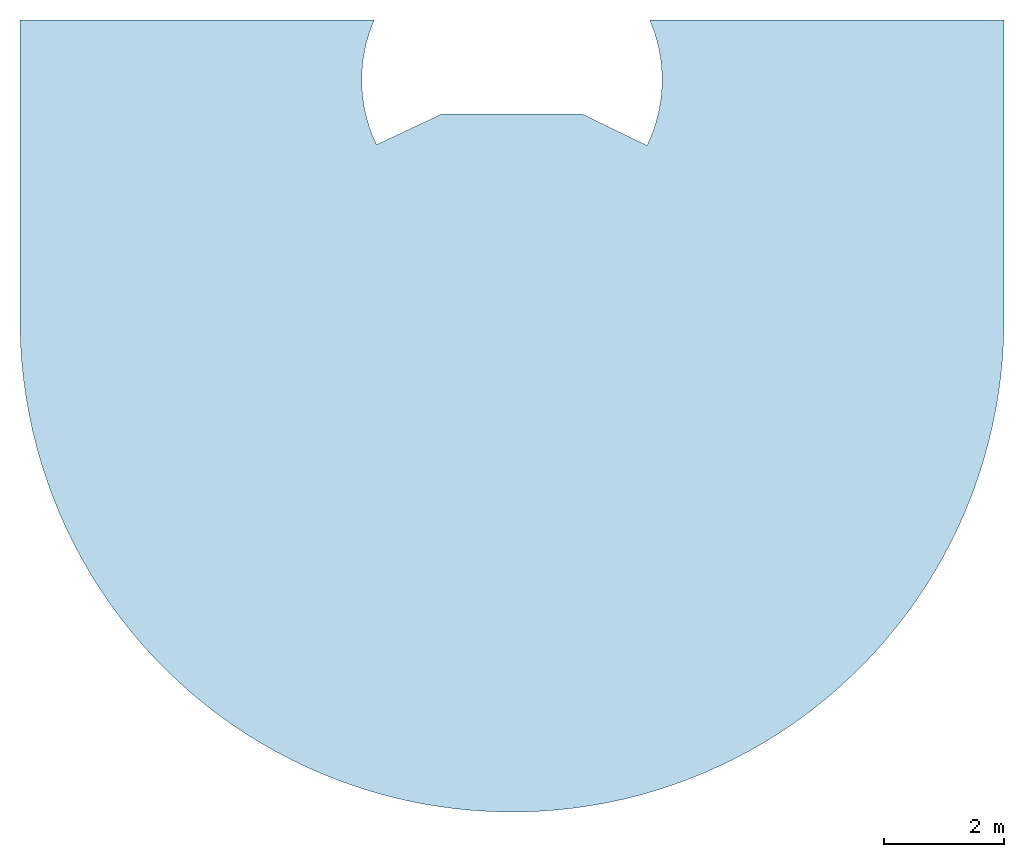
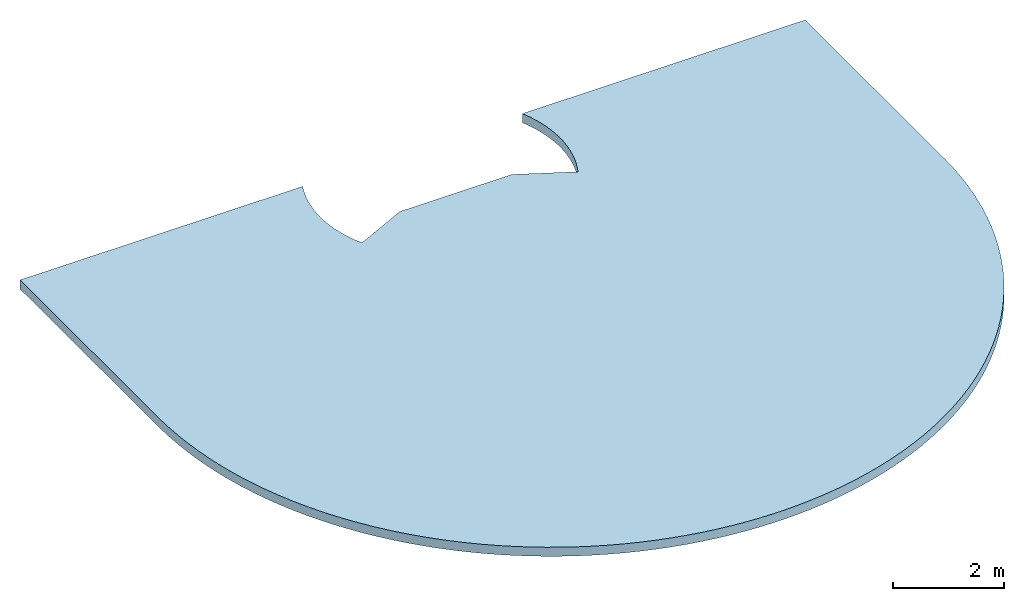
# One storey: 1 slab.
"""IFC4 building model written with IfcOpenShell, lengths in millimetres."""

from ifc_helpers import new_model, entity, si_unit, converted_unit, derived_unit, direction, frame, origin_with_axes, place, context, subcontext, project, spatial, polygons, material, type_object, element, save


model = new_model("IFC4")

# Units and contexts
model_context = context("Model", 3, precision=0.01, world=origin_with_axes(), true_north=direction((0.0, 1.0)))
body_context = subcontext(model_context, "Body", "Model", "MODEL_VIEW")
ifc_project = project(units=[si_unit("LENGTHUNIT", "METRE", prefix="MILLI"), si_unit("AREAUNIT", "SQUARE_METRE"), si_unit("VOLUMEUNIT", "CUBIC_METRE"), converted_unit("PLANEANGLEUNIT", "DEGREE", entity("IfcPlaneAngleMeasure", 0.0174532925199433), si_unit("PLANEANGLEUNIT", "RADIAN"), dimensions=[0, 0, 0, 0, 0, 0, 0]), converted_unit("TIMEUNIT", "Year", entity("IfcTimeMeasure", 31557600.0), si_unit("TIMEUNIT", "SECOND"), dimensions=[0, 0, 1, 0, 0, 0, 0]), si_unit("MASSUNIT", "GRAM", prefix="KILO"), si_unit("THERMODYNAMICTEMPERATUREUNIT", "DEGREE_CELSIUS"), si_unit("LUMINOUSINTENSITYUNIT", "LUMEN"), si_unit("ENERGYUNIT", "JOULE", prefix="MEGA"), derived_unit("THERMALCONDUCTANCEUNIT", [(si_unit("POWERUNIT", "WATT"), 1), (si_unit("LENGTHUNIT", "METRE"), -1), (si_unit("THERMODYNAMICTEMPERATUREUNIT", "KELVIN"), -1)]), derived_unit("SPECIFICHEATCAPACITYUNIT", [(si_unit("ENERGYUNIT", "JOULE"), 1), (si_unit("MASSUNIT", "GRAM", prefix="KILO"), -1), (si_unit("THERMODYNAMICTEMPERATUREUNIT", "KELVIN"), -1)]), derived_unit("MASSDENSITYUNIT", [(si_unit("MASSUNIT", "GRAM", prefix="KILO"), 1), (si_unit("VOLUMEUNIT", "CUBIC_METRE"), -1)])], contexts=[model_context])

# Site, building, storey
site_placement = place(None, origin_with_axes())
site = spatial("IfcSite", under=ifc_project, at=site_placement, Name="Exteriér", CompositionType="ELEMENT")
building_placement = place(site_placement, origin_with_axes())
building = spatial("IfcBuilding", under=site, at=building_placement, Name="Univerzitní lezecké centrum", CompositionType="ELEMENT")
storey_placement = place(building_placement, origin_with_axes())
storey = spatial("IfcBuildingStorey", under=building, at=storey_placement, Name="1.NP", CompositionType="ELEMENT", Elevation=0.0)

# Slab
ifc_material = material(Name="Beton vyztužený stropy")
slab_type = type_object("IfcSlabType", Name="Beton vyztužený stropy 200", PredefinedType="FLOOR")
slab_placement = place(storey_placement, frame((-5750.148360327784, 4700.00000000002, -120.000000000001), z_axis=(0.0, 0.0, 1.0), x_axis=(1.0, 0.0, 0.0)))
element("IfcSlab", 1, at=slab_placement, inside=storey, type_object=slab_type, material=ifc_material, Name="D02", PredefinedType="FLOOR", context=body_context, shape_type="Tessellation", body=[
    polygons([(8504.045631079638, -1566.550006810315, 0.0), (9224.88154503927, -1566.570605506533, 0.0), (9336.61521730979, -1566.573798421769, 0.0), (9336.61521730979, -1566.573798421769, -200.0), (8504.045631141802, -1566.550006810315, -200.0), (7029.948262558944, -1566.550006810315, 0.0), (5944.388825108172, -2077.817007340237, 0.0), (5874.039902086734, -1921.1812308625, 0.0), (5820.129976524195, -1772.8371608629, 0.0), (5775.737151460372, -1621.372576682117, 0.0), (5741.040181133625, -1467.397372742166, 0.0), (5716.178777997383, -1311.531552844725, 0.0), (5701.253050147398, -1154.402733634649, 0.0), (5696.323098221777, -996.6436174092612, 0.0), (5701.40877339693, -838.889444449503, 0.0), (5716.489597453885, -681.7754351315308, 0.0), (5741.504845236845, -525.934232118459, 0.0), (5776.353789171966, -371.9933529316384, 0.0), (5820.896104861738, -220.5726631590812, 0.0), (5874.952436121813, -72.28188047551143, 0.0), (5906.628776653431, 0.0, 0.0), (0.0, 0.0, 0.0), (9.185233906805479e-06, -5000.000000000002, 0.0), (0.0002207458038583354, -5143.931762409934, 0.0), (10.10303729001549, -5431.617949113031, 0.0), (30.29580063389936, -5718.772369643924, 0.0), (60.55363338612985, -6005.04125108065, 0.0), (100.8392580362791, -6290.071911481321, 0.0), (151.103042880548, -6573.51319438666, 0.0), (211.2830631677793, -6855.015901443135, 0.0), (281.305177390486, -7134.23322261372, 0.0), (361.0831186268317, -7410.821163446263, 0.0), (450.5186008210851, -7684.43896887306, 0.0), (549.5014398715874, -7954.749543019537, 0.0), (657.9096893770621, -8221.419864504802, 0.0), (775.6097908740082, -8484.121396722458, 0.0), (902.4567383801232, -8742.530492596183, 0.0), (1038.294257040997, -8996.328793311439, 0.0), (1182.954995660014, -9245.203620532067, 0.0), (1336.260732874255, -9488.848361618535, 0.0), (1498.022596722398, -9726.962847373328, 0.0), (1668.041297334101, -9959.253721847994, 0.0), (1846.107372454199, -10185.43480375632, 0.0), (2032.001445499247, -10405.22743904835, 0.0), (2225.494495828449, -10618.36084421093, 0.0), (2426.348140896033, -10824.5724398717, 0.0), (2634.314929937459, -11023.60817429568, 0.0), (2849.138648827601, -11215.22283637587, 0.0), (3070.554635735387, -11399.18035773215, 0.0), (3298.29010718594, -11575.25410354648, 0.0), (3532.064494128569, -11743.22715177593, 0.0), (3771.589787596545, -11902.89256039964, 0.0), (4016.570893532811, -12054.05362237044, 0.0), (4266.705996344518, -12196.52410795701, 0.0), (4521.686930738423, -12330.12849417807, 0.0), (4781.199561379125, -12454.70218104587, 0.0), (5044.924169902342, -12570.09169435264, 0.0), (5312.535848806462, -12676.15487475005, 0.0), (5583.704901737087, -12772.76105288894, 0.0), (5858.097249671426, -12859.79121040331, 0.0), (6135.3748425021, -12937.13812654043, 0.0), (6415.19607551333, -13004.70651025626, 0.0), (6697.216210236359, -13062.41311761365, 0.0), (6981.087799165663, -13110.18685433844, 0.0), (7266.461113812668, -13147.96886340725, 0.0), (7552.984575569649, -13175.71259755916, 0.0), (7840.305188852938, -13193.3838766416, 0.0), (8128.06897599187, -13200.96092972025, 0.0), (8200.000009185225, -13200.01351174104, 0.0), (8343.931797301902, -13200.01303729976, 0.0), (8631.618016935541, -13189.90969351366, 0.0), (8918.77245187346, -13169.71640209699, 0.0), (9205.041329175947, -13139.45804109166, 0.0), (9490.071966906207, -13099.1718886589, 0.0), (9773.513208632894, -13048.90757715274, 0.0), (10055.01585605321, -12988.72703197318, 0.0), (10334.23309920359, -12918.70439527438, 0.0), (10610.82094372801, -12838.92593462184, 0.0), (10884.43863467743, -12749.48993671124, 0.0), (11154.74907631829, -12650.50658627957, 0.0), (11421.41924743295, -12542.09783035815, 0.0), (11684.12061160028, -12424.39722803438, 0.0), (11942.52952195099, -12297.54978590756, 0.0), (12196.32761989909, -12161.71177944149, 0.0), (12445.20222735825, -12017.05056043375, 0.0), (12688.84673195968, -11863.7443508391, 0.0), (12926.9609647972, -11701.98202320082, 0.0), (13159.25157023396, -11531.96286796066, 0.0), (13385.4323673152, -11353.89634793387, 0.0), (13605.22470234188, -11168.00184025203, 0.0), (13818.35779217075, -10974.5083660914, 0.0), (14024.56905781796, -10773.6543085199, 0.0), (14223.60444795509, -10565.68711881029, 0.0), (14415.21875189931, -10350.86301158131, 0.0), (14599.17590171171, -10129.44664914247, 0.0), (14775.24926303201, -9901.710815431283, 0.0), (14943.22191429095, -9667.936079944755, 0.0), (15102.88691395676, -9428.410452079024, 0.0), (15254.04755548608, -9183.429026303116, 0.0), (15396.51760966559, -8933.293618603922, 0.0), (15530.1215540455, -8678.312394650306, 0.0), (15654.69478918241, -8418.799490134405, 0.0), (15770.08384142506, -8155.074623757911, 0.0), (15876.14655199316, -7887.462703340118, 0.0), (15972.75225211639, -7616.293425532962, 0.0), (16059.78192401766, -7341.90086963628, 0.0), (16137.12834754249, -7064.623086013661, 0.0), (16204.69623225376, -6784.801679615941, 0.0), (16262.40233482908, -6502.781389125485, 0.0), (16310.17556161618, -6218.909662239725, 0.0), (16347.95705621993, -5933.536227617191, 0.0), (16375.70027201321, -5647.012664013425, 0.0), (16393.3710294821, -5359.691967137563, 0.0), (16400.94755833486, -5071.928114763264, 0.0), (16400.00000880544, -5000.0, 0.0), (16400.00000921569, 0.0, 0.0), (10493.98062268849, 0.0, 0.0), (10558.26944216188, -159.7364602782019, 0.0), (10606.6210584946, -311.1046369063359, 0.0), (10645.2749643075, -465.2347094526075, 0.0), (10674.07551396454, -621.5060505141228, 0.0), (10692.90673781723, -779.2894105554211, 0.0), (10701.69280917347, -937.9494516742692, 0.0), (10700.39834962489, -1096.847305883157, 0.0), (10689.02857150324, -1255.343147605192, 0.0), (10667.62925689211, -1412.798770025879, 0.0), (10636.28657327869, -1568.580154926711, 0.0), (10595.12672658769, -1722.06002565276, 0.0), (10544.31545299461, -1872.620372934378, 0.0), (10484.0573515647, -2019.654943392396, 0.0), (10449.32620598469, -2091.113312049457, 0.0), (9370.051755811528, -1566.550006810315, 0.0), (9336.627076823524, -1566.550006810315, 0.0), (9336.627076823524, -1566.550006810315, -200.0), (7029.948262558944, -1566.550006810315, -200.0), (9370.051755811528, -1566.550006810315, -200.0), (10449.32620598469, -2091.113312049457, -200.0), (10484.0573515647, -2019.654943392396, -200.0), (10544.31545299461, -1872.620372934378, -200.0), (10595.12672658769, -1722.06002565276, -200.0), (10636.28657327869, -1568.580154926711, -200.0), (10667.62925689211, -1412.798770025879, -200.0), (10689.02857150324, -1255.343147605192, -200.0), (10700.39834962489, -1096.847305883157, -200.0), (10701.69280917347, -937.9494516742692, -200.0), (10692.90673781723, -779.2894105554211, -200.0), (10674.07551396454, -621.5060505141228, -200.0), (10645.2749643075, -465.2347094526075, -200.0), (10606.6210584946, -311.1046369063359, -200.0), (10558.26944216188, -159.7364602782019, -200.0), (10493.98062268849, 0.0, -200.0), (16400.00000921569, 0.0, -200.0), (16400.00000880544, -5000.0, -200.0), (16400.94755833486, -5071.928114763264, -200.0), (16393.3710294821, -5359.691967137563, -200.0), (16375.70027201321, -5647.012664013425, -200.0), (16347.95705621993, -5933.536227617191, -200.0), (16310.17556161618, -6218.909662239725, -200.0), (16262.40233482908, -6502.781389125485, -200.0), (16204.69623225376, -6784.801679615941, -200.0), (16137.12834754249, -7064.623086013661, -200.0), (16059.78192401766, -7341.90086963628, -200.0), (15972.75225211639, -7616.293425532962, -200.0), (15876.14655199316, -7887.462703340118, -200.0), (15770.08384142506, -8155.074623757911, -200.0), (15654.69478918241, -8418.799490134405, -200.0), (15530.1215540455, -8678.312394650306, -200.0), (15396.51760966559, -8933.293618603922, -200.0), (15254.04755548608, -9183.429026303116, -200.0), (15102.88691395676, -9428.410452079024, -200.0), (14943.22191429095, -9667.936079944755, -200.0), (14775.24926303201, -9901.710815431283, -200.0), (14599.17590171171, -10129.44664914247, -200.0), (14415.21875189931, -10350.86301158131, -200.0), (14223.60444795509, -10565.68711881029, -200.0), (14024.56905781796, -10773.6543085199, -200.0), (13818.35779217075, -10974.5083660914, -200.0), (13605.22470234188, -11168.00184025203, -200.0), (13385.4323673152, -11353.89634793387, -200.0), (13159.25157023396, -11531.96286796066, -200.0), (12926.9609647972, -11701.98202320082, -200.0), (12688.84673195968, -11863.7443508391, -200.0), (12445.20222735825, -12017.05056043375, -200.0), (12196.32761989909, -12161.71177944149, -200.0), (11942.52952195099, -12297.54978590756, -200.0), (11684.12061160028, -12424.39722803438, -200.0), (11421.41924743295, -12542.09783035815, -200.0), (11154.74907631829, -12650.50658627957, -200.0), (10884.43863467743, -12749.48993671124, -200.0), (10610.82094372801, -12838.92593462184, -200.0), (10334.23309920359, -12918.70439527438, -200.0), (10055.01585605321, -12988.72703197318, -200.0), (9773.513208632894, -13048.90757715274, -200.0), (9490.071966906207, -13099.1718886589, -200.0), (9205.041329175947, -13139.45804109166, -200.0), (8918.77245187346, -13169.71640209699, -200.0), (8631.618016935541, -13189.90969351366, -200.0), (8343.931797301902, -13200.01303729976, -200.0), (8200.000009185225, -13200.01351174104, -200.0), (8128.06897599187, -13200.96092972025, -200.0), (7840.305188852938, -13193.3838766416, -200.0), (7552.984575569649, -13175.71259755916, -200.0), (7266.461113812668, -13147.96886340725, -200.0), (6981.087799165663, -13110.18685433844, -200.0), (6697.216210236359, -13062.41311761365, -200.0), (6415.19607551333, -13004.70651025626, -200.0), (6135.3748425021, -12937.13812654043, -200.0), (5858.097249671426, -12859.79121040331, -200.0), (5583.704901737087, -12772.76105288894, -200.0), (5312.535848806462, -12676.15487475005, -200.0), (5044.924169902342, -12570.09169435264, -200.0), (4781.199561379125, -12454.70218104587, -200.0), (4521.686930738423, -12330.12849417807, -200.0), (4266.705996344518, -12196.52410795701, -200.0), (4016.570893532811, -12054.05362237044, -200.0), (3771.589787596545, -11902.89256039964, -200.0), (3532.064494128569, -11743.22715177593, -200.0), (3298.29010718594, -11575.25410354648, -200.0), (3070.554635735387, -11399.18035773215, -200.0), (2849.138648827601, -11215.22283637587, -200.0), (2634.314929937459, -11023.60817429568, -200.0), (2426.348140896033, -10824.5724398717, -200.0), (2225.494495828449, -10618.36084421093, -200.0), (2032.001445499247, -10405.22743904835, -200.0), (1846.107372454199, -10185.43480375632, -200.0), (1668.041297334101, -9959.253721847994, -200.0), (1498.022596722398, -9726.962847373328, -200.0), (1336.260732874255, -9488.848361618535, -200.0), (1182.954995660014, -9245.203620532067, -200.0), (1038.294257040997, -8996.328793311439, -200.0), (902.4567383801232, -8742.530492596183, -200.0), (775.6097908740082, -8484.121396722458, -200.0), (657.9096893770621, -8221.419864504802, -200.0), (549.5014398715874, -7954.749543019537, -200.0), (450.5186008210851, -7684.43896887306, -200.0), (361.0831186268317, -7410.821163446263, -200.0), (281.305177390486, -7134.23322261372, -200.0), (211.2830631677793, -6855.015901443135, -200.0), (151.103042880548, -6573.51319438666, -200.0), (100.8392580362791, -6290.071911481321, -200.0), (60.55363338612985, -6005.04125108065, -200.0), (30.29580063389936, -5718.772369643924, -200.0), (10.10303729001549, -5431.617949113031, -200.0), (0.0002207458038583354, -5143.931762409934, -200.0), (9.185233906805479e-06, -5000.000000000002, -200.0), (0.0, 0.0, -200.0), (5906.628776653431, 0.0, -200.0), (5874.952436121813, -72.28188047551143, -200.0), (5820.896104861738, -220.5726631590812, -200.0), (5776.353789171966, -371.9933529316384, -200.0), (5741.504845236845, -525.934232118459, -200.0), (5716.489597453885, -681.7754351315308, -200.0), (5701.40877339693, -838.889444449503, -200.0), (5696.323098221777, -996.6436174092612, -200.0), (5701.253050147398, -1154.402733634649, -200.0), (5716.178777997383, -1311.531552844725, -200.0), (5741.040181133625, -1467.397372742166, -200.0), (5775.737151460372, -1621.372576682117, -200.0), (5820.129976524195, -1772.8371608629, -200.0), (5874.039902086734, -1921.1812308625, -200.0), (5944.388825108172, -2077.817007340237, -200.0)], [[[1, 2, 3, 4, 5]], [[3, 2, 1, 6, 7, 8, 9, 10, 11, 12, 13, 14, 15, 16, 17, 18, 19, 20, 21, 22, 23, 24, 25, 26, 27, 28, 29, 30, 31, 32, 33, 34, 35, 36, 37, 38, 39, 40, 41, 42, 43, 44, 45, 46, 47, 48, 49, 50, 51, 52, 53, 54, 55, 56, 57, 58, 59, 60, 61, 62, 63, 64, 65, 66, 67, 68, 69, 70, 71, 72, 73, 74, 75, 76, 77, 78, 79, 80, 81, 82, 83, 84, 85, 86, 87, 88, 89, 90, 91, 92, 93, 94, 95, 96, 97, 98, 99, 100, 101, 102, 103, 104, 105, 106, 107, 108, 109, 110, 111, 112, 113, 114, 115, 116, 117, 118, 119, 120, 121, 122, 123, 124, 125, 126, 127, 128, 129, 130, 131, 132, 133]], [[4, 3, 133, 134]], [[135, 5, 4, 134, 136, 137, 138, 139, 140, 141, 142, 143, 144, 145, 146, 147, 148, 149, 150, 151, 152, 153, 154, 155, 156, 157, 158, 159, 160, 161, 162, 163, 164, 165, 166, 167, 168, 169, 170, 171, 172, 173, 174, 175, 176, 177, 178, 179, 180, 181, 182, 183, 184, 185, 186, 187, 188, 189, 190, 191, 192, 193, 194, 195, 196, 197, 198, 199, 200, 201, 202, 203, 204, 205, 206, 207, 208, 209, 210, 211, 212, 213, 214, 215, 216, 217, 218, 219, 220, 221, 222, 223, 224, 225, 226, 227, 228, 229, 230, 231, 232, 233, 234, 235, 236, 237, 238, 239, 240, 241, 242, 243, 244, 245, 246, 247, 248, 249, 250, 251, 252, 253, 254, 255, 256, 257, 258, 259, 260, 261]], [[6, 1, 5, 135]], [[7, 6, 135, 261]], [[8, 7, 261, 260]], [[9, 8, 260, 259]], [[10, 9, 259, 258]], [[11, 10, 258, 257]], [[12, 11, 257, 256]], [[13, 12, 256, 255]], [[14, 13, 255, 254]], [[15, 14, 254, 253]], [[16, 15, 253, 252]], [[17, 16, 252, 251]], [[18, 17, 251, 250]], [[19, 18, 250, 249]], [[20, 19, 249, 248]], [[21, 20, 248, 247]], [[22, 21, 247, 246]], [[23, 22, 246, 245]], [[24, 23, 245, 244]], [[25, 24, 244, 243]], [[26, 25, 243, 242]], [[27, 26, 242, 241]], [[28, 27, 241, 240]], [[29, 28, 240, 239]], [[30, 29, 239, 238]], [[31, 30, 238, 237]], [[32, 31, 237, 236]], [[33, 32, 236, 235]], [[34, 33, 235, 234]], [[35, 34, 234, 233]], [[36, 35, 233, 232]], [[37, 36, 232, 231]], [[38, 37, 231, 230]], [[39, 38, 230, 229]], [[40, 39, 229, 228]], [[41, 40, 228, 227]], [[42, 41, 227, 226]], [[43, 42, 226, 225]], [[44, 43, 225, 224]], [[45, 44, 224, 223]], [[46, 45, 223, 222]], [[47, 46, 222, 221]], [[48, 47, 221, 220]], [[49, 48, 220, 219]], [[50, 49, 219, 218]], [[51, 50, 218, 217]], [[52, 51, 217, 216]], [[53, 52, 216, 215]], [[54, 53, 215, 214]], [[55, 54, 214, 213]], [[56, 55, 213, 212]], [[57, 56, 212, 211]], [[58, 57, 211, 210]], [[59, 58, 210, 209]], [[60, 59, 209, 208]], [[61, 60, 208, 207]], [[62, 61, 207, 206]], [[63, 62, 206, 205]], [[64, 63, 205, 204]], [[65, 64, 204, 203]], [[66, 65, 203, 202]], [[67, 66, 202, 201]], [[68, 67, 201, 200]], [[69, 68, 200, 199]], [[70, 69, 199, 198]], [[71, 70, 198, 197]], [[72, 71, 197, 196]], [[73, 72, 196, 195]], [[74, 73, 195, 194]], [[75, 74, 194, 193]], [[76, 75, 193, 192]], [[77, 76, 192, 191]], [[78, 77, 191, 190]], [[79, 78, 190, 189]], [[80, 79, 189, 188]], [[81, 80, 188, 187]], [[82, 81, 187, 186]], [[83, 82, 186, 185]], [[84, 83, 185, 184]], [[85, 84, 184, 183]], [[86, 85, 183, 182]], [[87, 86, 182, 181]], [[88, 87, 181, 180]], [[89, 88, 180, 179]], [[90, 89, 179, 178]], [[91, 90, 178, 177]], [[92, 91, 177, 176]], [[93, 92, 176, 175]], [[94, 93, 175, 174]], [[95, 94, 174, 173]], [[96, 95, 173, 172]], [[97, 96, 172, 171]], [[98, 97, 171, 170]], [[99, 98, 170, 169]], [[100, 99, 169, 168]], [[101, 100, 168, 167]], [[102, 101, 167, 166]], [[103, 102, 166, 165]], [[104, 103, 165, 164]], [[105, 104, 164, 163]], [[106, 105, 163, 162]], [[107, 106, 162, 161]], [[108, 107, 161, 160]], [[109, 108, 160, 159]], [[110, 109, 159, 158]], [[111, 110, 158, 157]], [[112, 111, 157, 156]], [[113, 112, 156, 155]], [[114, 113, 155, 154]], [[115, 114, 154, 153]], [[116, 115, 153, 152]], [[117, 116, 152, 151]], [[118, 117, 151, 150]], [[119, 118, 150, 149]], [[120, 119, 149, 148]], [[121, 120, 148, 147]], [[122, 121, 147, 146]], [[123, 122, 146, 145]], [[124, 123, 145, 144]], [[125, 124, 144, 143]], [[126, 125, 143, 142]], [[127, 126, 142, 141]], [[128, 127, 141, 140]], [[129, 128, 140, 139]], [[130, 129, 139, 138]], [[131, 130, 138, 137]], [[132, 131, 137, 136]], [[136, 134, 133, 132]]], closed=True),
])

save(model, "model.ifc")
